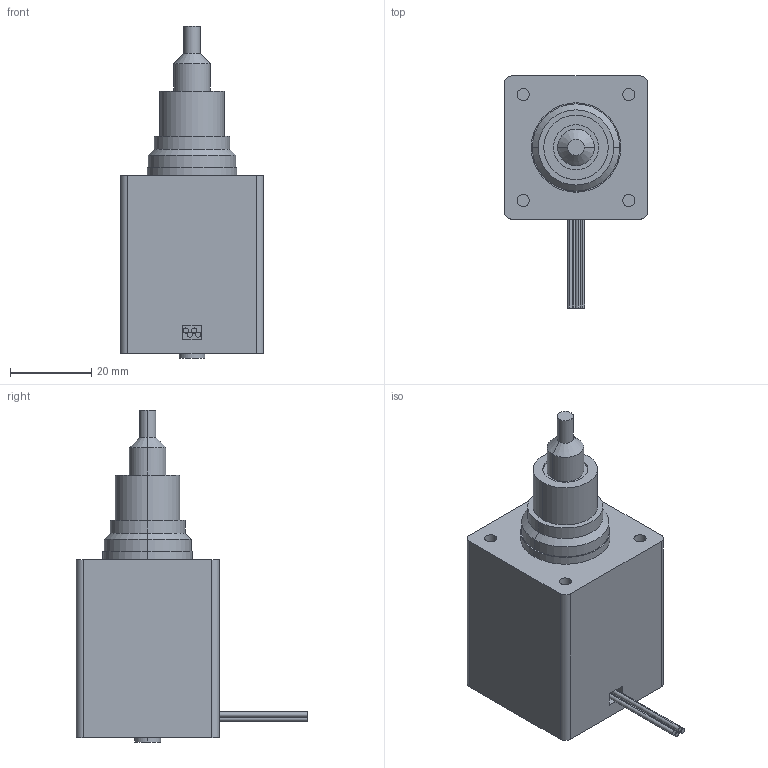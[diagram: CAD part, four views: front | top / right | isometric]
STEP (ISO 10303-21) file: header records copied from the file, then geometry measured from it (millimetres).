
FILE_DESCRIPTION (( 'STEP AP214' ), '1' );
FILE_NAME ('AMETEK-35M4B-2.33-0.5-4.STEP', '2022-02-28T12:10:18', ( '' ), ( '' ), 'SwSTEP 2.0', 'SolidWorks 2021', '' );
FILE_SCHEMA (( 'AUTOMOTIVE_DESIGN' ));
Length unit declared in the file: millimetre
Products named in the file (1): AMETEK-35M4B-2.33-0.5-4
Bounding box: 35.2 x 57.02 x 81.69 mm (x, y, z)
Volume: 58176.5 mm3; surface area: 11945.7 mm2
Topology: 2 solids, 2 shells, 72 faces, 148 edges, 96 vertices
Faces by surface type: cylinder 40, plane 28, cone 4
Entity records: 2730 total; most frequent: DIRECTION 374, CARTESIAN_POINT 317, ORIENTED_EDGE 296, AXIS2_PLACEMENT_3D 153, EDGE_CURVE 148, VERTEX_POINT 96, EDGE_LOOP 88, CIRCLE 80
